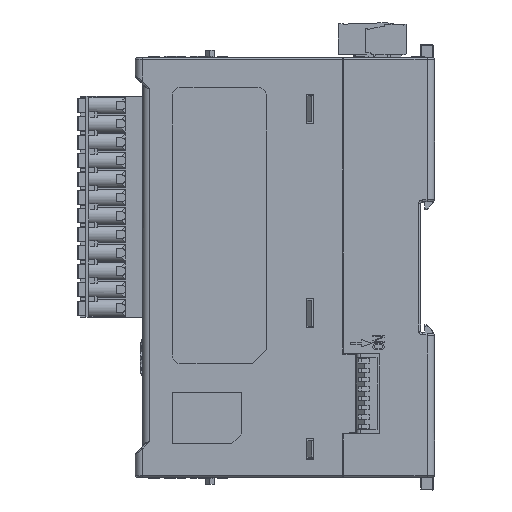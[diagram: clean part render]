
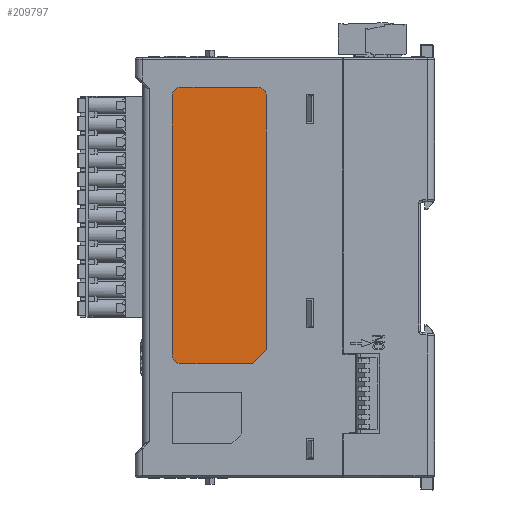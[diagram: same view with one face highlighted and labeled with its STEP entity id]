
A CAD part, left-side view. The second image highlights one B-rep face of the part: STEP entity #209797.
In plain terms, the highlighted planar face has unit normal (-1, 0, 0).
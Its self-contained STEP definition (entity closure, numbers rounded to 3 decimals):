
#58283=DIRECTION('',(0.,0.707,-0.707));
#58284=VECTOR('',#58283,5.374);
#58285=CARTESIAN_POINT('',(-34.7,44.4,-22.3));
#58286=LINE('',#58285,#58284);
#58287=DIRECTION('',(0.,1.,0.));
#58288=VECTOR('',#58287,19.4);
#58289=CARTESIAN_POINT('',(-34.7,48.2,-26.1));
#58290=LINE('',#58289,#58288);
#58291=CARTESIAN_POINT('',(-34.7,67.6,-23.7));
#58292=DIRECTION('',(1.,0.,0.));
#58293=DIRECTION('',(0.,0.,-1.));
#58294=AXIS2_PLACEMENT_3D('',#58291,#58292,#58293);
#58296=DIRECTION('',(0.,0.,1.));
#58297=VECTOR('',#58296,70.2);
#58298=CARTESIAN_POINT('',(-34.7,70.,-23.7));
#58299=LINE('',#58298,#58297);
#58300=CARTESIAN_POINT('',(-34.7,67.6,46.5));
#58301=DIRECTION('',(1.,0.,0.));
#58302=DIRECTION('',(0.,1.,0.));
#58303=AXIS2_PLACEMENT_3D('',#58300,#58301,#58302);
#58305=DIRECTION('',(0.,-1.,0.));
#58306=VECTOR('',#58305,20.8);
#58307=CARTESIAN_POINT('',(-34.7,67.6,48.9));
#58308=LINE('',#58307,#58306);
#58309=CARTESIAN_POINT('',(-34.7,46.8,46.5));
#58310=DIRECTION('',(1.,0.,0.));
#58311=DIRECTION('',(0.,0.,1.));
#58312=AXIS2_PLACEMENT_3D('',#58309,#58310,#58311);
#58314=DIRECTION('',(0.,0.,-1.));
#58315=VECTOR('',#58314,68.8);
#58316=CARTESIAN_POINT('',(-34.7,44.4,46.5));
#58317=LINE('',#58316,#58315);
#94584=CARTESIAN_POINT('',(-34.7,48.2,-26.1));
#94585=VERTEX_POINT('',#94584);
#94586=CARTESIAN_POINT('',(-34.7,67.6,-26.1));
#94587=VERTEX_POINT('',#94586);
#94588=CARTESIAN_POINT('',(-34.7,44.4,-22.3));
#94589=VERTEX_POINT('',#94588);
#94590=CARTESIAN_POINT('',(-34.7,70.,-23.7));
#94591=VERTEX_POINT('',#94590);
#94592=CARTESIAN_POINT('',(-34.7,70.,46.5));
#94593=VERTEX_POINT('',#94592);
#94594=CARTESIAN_POINT('',(-34.7,67.6,48.9));
#94595=VERTEX_POINT('',#94594);
#94596=CARTESIAN_POINT('',(-34.7,46.8,48.9));
#94597=VERTEX_POINT('',#94596);
#94598=CARTESIAN_POINT('',(-34.7,44.4,46.5));
#94599=VERTEX_POINT('',#94598);
#209776=CARTESIAN_POINT('',(-34.7,80.,0.));
#209777=DIRECTION('',(-1.,0.,0.));
#209778=DIRECTION('',(0.,1.,0.));
#209779=AXIS2_PLACEMENT_3D('',#209776,#209777,#209778);
#209780=PLANE('',#209779);
#209781=ORIENTED_EDGE('',*,*,#209760,.T.);
#209782=ORIENTED_EDGE('',*,*,#209743,.T.);
#209784=ORIENTED_EDGE('',*,*,#209783,.T.);
#209786=ORIENTED_EDGE('',*,*,#209785,.T.);
#209788=ORIENTED_EDGE('',*,*,#209787,.T.);
#209790=ORIENTED_EDGE('',*,*,#209789,.T.);
#209792=ORIENTED_EDGE('',*,*,#209791,.T.);
#209794=ORIENTED_EDGE('',*,*,#209793,.T.);
#209795=EDGE_LOOP('',(#209781,#209782,#209784,#209786,#209788,#209790,#209792,
#209794));
#209796=FACE_OUTER_BOUND('',#209795,.F.);
#209797=ADVANCED_FACE('',(#209796),#209780,.T.);
#58295=CIRCLE('',#58294,2.4);
#58304=CIRCLE('',#58303,2.4);
#58313=CIRCLE('',#58312,2.4);
#209743=EDGE_CURVE('',#94585,#94587,#58290,.T.);
#209760=EDGE_CURVE('',#94589,#94585,#58286,.T.);
#209783=EDGE_CURVE('',#94587,#94591,#58295,.T.);
#209785=EDGE_CURVE('',#94591,#94593,#58299,.T.);
#209787=EDGE_CURVE('',#94593,#94595,#58304,.T.);
#209789=EDGE_CURVE('',#94595,#94597,#58308,.T.);
#209791=EDGE_CURVE('',#94597,#94599,#58313,.T.);
#209793=EDGE_CURVE('',#94599,#94589,#58317,.T.);
